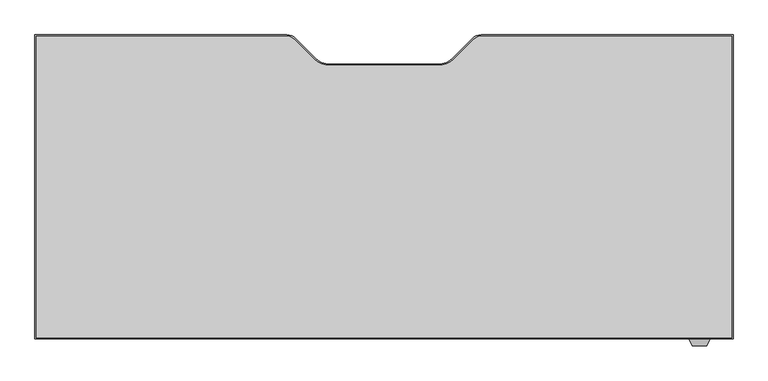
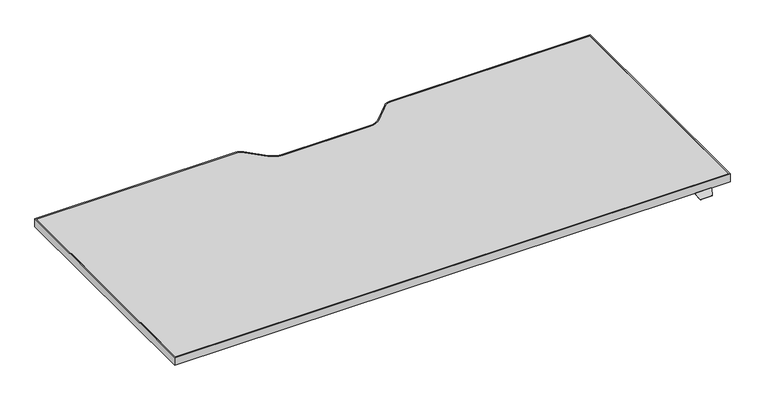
"""IFC4 building model written with IfcOpenShell, lengths in millimetres: furniture geometry, Steelcase Turnstone - Bivi - Height Adjustable Desk - C Base : 29D x 66.5W."""

from ifc_helpers import new_model, si_unit, point, frame, frame_2d, origin, place, context, project, spatial, polyline, circle_curve, trimmed, segment, composite_curve, outline, extrude, faceted_brep, source, transform, mapped, element, save


def furniture_2a7f6338(model_context):
    return source(origin(), model_context, "Body", "SolidModel", [
        faceted_brep([(398.5677913, -465.8301693, 760.9984131), (398.5677913, -463.3074599, 760.9984131), (398.5677913, -463.3074599, 762.4), (398.5677913, -465.8490853, 762.4), (398.5677913, -467.1594921, 761.3004382), (398.5677913, -467.1594921, 759.8829789), (348.9948135, -465.8490853, 762.4), (348.9948135, -463.3074599, 762.4), (348.9948135, -463.3074599, 760.9984131), (348.9948135, -465.8301693, 760.9984131), (348.9948135, -467.1594921, 759.8829789), (348.9948135, -467.1594921, 761.3004382), (391.5858363, -482.1323429, 748.7367246), (355.9767685, -482.1323429, 748.7367246), (355.6173686, -481.3616074, 747.9659891), (391.9452362, -481.3616074, 747.9659891)], [[[0, 1, 2, 3, 4, 5]], [[6, 7, 8, 9, 10, 11]], [[12, 13, 14, 15]], [[9, 0, 5, 15, 14, 10]], [[1, 0, 9, 8]], [[2, 1, 8, 7]], [[3, 2, 7, 6]], [[3, 6, 11, 13, 12, 4]], [[5, 4, 12, 15]], [[11, 10, 14, 13]]]),
        extrude(outline(composite_curve([segment(polyline([(-1233.7785908, 270.7509147), (-623.9070191, 270.7509147)]), True, "CONTINUOUS"), segment(trimmed(circle_curve(frame_2d((-623.9070191, 242.0489147)), 28.702), [point((-623.9070191, 270.7509147))], [point((-603.6116402, 262.3442935))], False, "CARTESIAN"), True, "CONTINUOUS"), segment(polyline([(-603.6116402, 262.3442935), (-556.0972358, 214.8298891)]), True, "CONTINUOUS"), segment(trimmed(circle_curve(frame_2d((-520.1762113, 250.7509136)), 50.8), [point((-556.0972358, 214.8298891))], [point((-520.1762113, 199.9509136))], True, "CARTESIAN"), True, "CONTINUOUS"), segment(polyline([(-520.1762113, 199.9509136), (-258.2809703, 199.9509136)]), True, "CONTINUOUS"), segment(trimmed(circle_curve(frame_2d((-258.2809703, 250.7509136)), 50.8), [point((-258.2809703, 199.9509136))], [point((-222.3599458, 214.8298891))], True, "CARTESIAN"), True, "CONTINUOUS"), segment(polyline([(-222.3599458, 214.8298891), (-174.8455414, 262.3442935)]), True, "CONTINUOUS"), segment(trimmed(circle_curve(frame_2d((-154.5501625, 242.0489147)), 28.702), [point((-174.8455414, 262.3442935))], [point((-154.5501625, 270.7509147))], False, "CARTESIAN"), True, "CONTINUOUS"), segment(polyline([(-154.5501625, 270.7509147), (455.3214092, 270.7509147), (455.3214092, -465.8490853), (-1233.7785908, -465.8490853), (-1233.7785908, 270.7509147)]), True, "CONTINUOUS")], self_intersect=False), holes=[composite_curve([segment(polyline([(-1230.3987543, 267.4489147), (-1230.3987543, -462.5470853), (452.0194092, -462.5470853), (452.0194092, 267.4489147), (-154.5501625, 267.4489147)]), True, "CONTINUOUS"), segment(trimmed(circle_curve(frame_2d((-154.5501625, 242.0489147)), 25.4), [point((-154.5501625, 267.4489147))], [point((-172.5106748, 260.0094269))], True, "CARTESIAN"), True, "CONTINUOUS"), segment(polyline([(-172.5106748, 260.0094269), (-220.527602, 211.9924998)]), True, "CONTINUOUS"), segment(trimmed(circle_curve(frame_2d((-256.4486265, 247.9135242)), 50.8), [point((-220.527602, 211.9924998))], [point((-256.4486265, 197.1135242))], False, "CARTESIAN"), True, "CONTINUOUS"), segment(polyline([(-256.4486265, 197.1135242), (-389.2285908, 197.1135242), (-522.0085552, 197.1135242)]), True, "CONTINUOUS"), segment(trimmed(circle_curve(frame_2d((-522.0085552, 247.9135242)), 50.8), [point((-522.0085552, 197.1135242))], [point((-557.9295796, 211.9924998))], False, "CARTESIAN"), True, "CONTINUOUS"), segment(polyline([(-557.9295796, 211.9924998), (-605.9465068, 260.0094269)]), True, "CONTINUOUS"), segment(trimmed(circle_curve(frame_2d((-623.9070191, 242.0489147)), 25.4), [point((-605.9465068, 260.0094269))], [point((-623.9070191, 267.4489147))], True, "CARTESIAN"), True, "CONTINUOUS"), segment(polyline([(-623.9070191, 267.4489147), (-1230.3987543, 267.4489147)]), True, "CONTINUOUS")], self_intersect=False)]), frame((0.0, 0.0, 762.4), z_axis=(0.0, 0.0, 1.0), x_axis=(1.0, 0.0, 0.0)), (0.0, 0.0, 1.0), 25.0),
        extrude(outline(composite_curve([segment(polyline([(-1230.3987543, 267.4489147), (-623.9070191, 267.4489147)]), True, "CONTINUOUS"), segment(trimmed(circle_curve(frame_2d((-623.9070191, 242.0489147)), 25.4), [point((-623.9070191, 267.4489147))], [point((-605.9465068, 260.0094269))], False, "CARTESIAN"), True, "CONTINUOUS"), segment(polyline([(-605.9465068, 260.0094269), (-557.9295796, 211.9924998)]), True, "CONTINUOUS"), segment(trimmed(circle_curve(frame_2d((-522.0085552, 247.9135242)), 50.8), [point((-557.9295796, 211.9924998))], [point((-522.0085552, 197.1135242))], True, "CARTESIAN"), True, "CONTINUOUS"), segment(polyline([(-522.0085552, 197.1135242), (-389.2285908, 197.1135242), (-256.4486265, 197.1135242)]), True, "CONTINUOUS"), segment(trimmed(circle_curve(frame_2d((-256.4486265, 247.9135242)), 50.8), [point((-256.4486265, 197.1135242))], [point((-220.527602, 211.9924998))], True, "CARTESIAN"), True, "CONTINUOUS"), segment(polyline([(-220.527602, 211.9924998), (-172.5106748, 260.0094269)]), True, "CONTINUOUS"), segment(trimmed(circle_curve(frame_2d((-154.5501625, 242.0489147)), 25.4), [point((-172.5106748, 260.0094269))], [point((-154.5501625, 267.4489147))], False, "CARTESIAN"), True, "CONTINUOUS"), segment(polyline([(-154.5501625, 267.4489147), (452.0194092, 267.4489147), (452.0194092, -462.5470853), (-1230.3987543, -462.5470853), (-1230.3987543, 267.4489147)]), True, "CONTINUOUS")], self_intersect=False)), frame((0.0, 0.0, 762.4), z_axis=(0.0, 0.0, 1.0), x_axis=(1.0, 0.0, 0.0)), (0.0, 0.0, 1.0), 25.0),
    ])


if __name__ == "__main__":
    model = new_model("IFC4")
    model_context = context("Model", 3, world=origin())
    ifc_project = project(units=[si_unit("LENGTHUNIT", "METRE", prefix="MILLI")], contexts=[model_context])
    site = spatial("IfcSite", under=ifc_project)
    building = spatial("IfcBuilding", under=site)
    placement = place(None, origin())
    furniture_shape = furniture_2a7f6338(model_context)
    element("IfcFurniture", 1, ObjectType="Steelcase Turnstone - Bivi - Height Adjustable Desk - C Base : 29D x 66.5W", at=placement, inside=building, context=model_context, shape_type="MappedRepresentation", body=[
        mapped(furniture_shape, transform((0.0, 0.0, 0.0), x_axis=(1.0, 0.0, 0.0), y_axis=(0.0, 1.0, 0.0), z_axis=(0.0, 0.0, 1.0))),
    ])
    save(model, "model.ifc")
